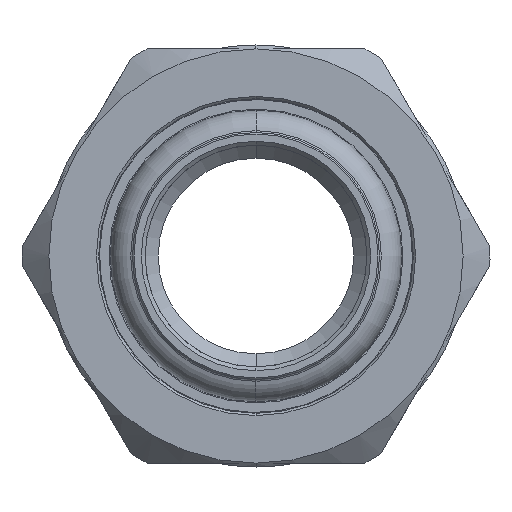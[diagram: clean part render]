
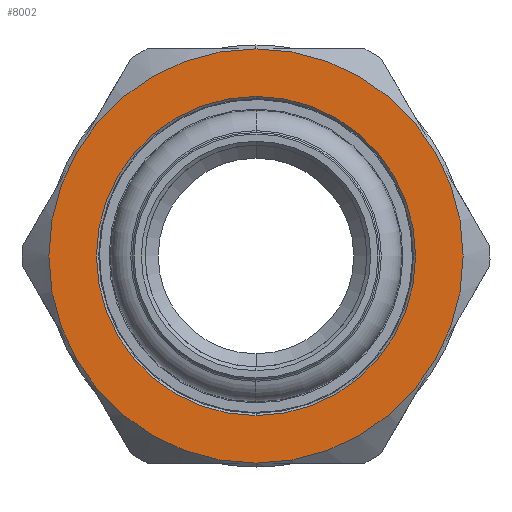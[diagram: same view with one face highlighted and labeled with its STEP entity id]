
A CAD part, left-side view. The second image highlights one B-rep face of the part: STEP entity #8002.
In plain terms, the highlighted planar face has unit normal (-1, 0, 0).
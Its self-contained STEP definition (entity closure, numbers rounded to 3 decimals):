
#55 = VERTEX_POINT('',#56);
#56 = CARTESIAN_POINT('',(-52.999,0.,-13.301));
#63 = CONICAL_SURFACE('',#64,0.82,0.785);
#64 = AXIS2_PLACEMENT_3D('',#65,#66,#67);
#65 = CARTESIAN_POINT('',(-52.999,0.,-14.121)
  );
#66 = DIRECTION('',(-1.,0.,0.));
#67 = DIRECTION('',(0.,0.,1.));
#75 = CONICAL_SURFACE('',#76,0.82,0.785);
#76 = AXIS2_PLACEMENT_3D('',#77,#78,#79);
#77 = CARTESIAN_POINT('',(-52.999,0.,-14.121)
  );
#78 = DIRECTION('',(-1.,0.,0.));
#79 = DIRECTION('',(0.,0.,1.));
#87 = EDGE_CURVE('',#55,#88,#90,.T.);
#88 = VERTEX_POINT('',#89);
#89 = CARTESIAN_POINT('',(-52.999,0.,-14.94)
  );
#90 = SURFACE_CURVE('',#91,(#96,#103),.PCURVE_S1.);
#91 = CIRCLE('',#92,0.82);
#92 = AXIS2_PLACEMENT_3D('',#93,#94,#95);
#93 = CARTESIAN_POINT('',(-52.999,0.,-14.121)
  );
#94 = DIRECTION('',(1.,0.,0.));
#95 = DIRECTION('',(0.,0.,-1.));
#96 = PCURVE('',#63,#97);
#97 = DEFINITIONAL_REPRESENTATION('',(#98),#102);
#98 = LINE('',#99,#100);
#99 = CARTESIAN_POINT('',(9.425,0.));
#100 = VECTOR('',#101,1.);
#101 = DIRECTION('',(-1.,0.));
#102 = ( GEOMETRIC_REPRESENTATION_CONTEXT(2) 
PARAMETRIC_REPRESENTATION_CONTEXT() REPRESENTATION_CONTEXT('2D SPACE',''
  ) );
#103 = PCURVE('',#104,#109);
#104 = PLANE('',#105);
#105 = AXIS2_PLACEMENT_3D('',#106,#107,#108);
#106 = CARTESIAN_POINT('',(-52.999,0.,-14.121)
  );
#107 = DIRECTION('',(1.,0.,0.));
#108 = DIRECTION('',(0.,0.,-1.));
#109 = DEFINITIONAL_REPRESENTATION('',(#110),#114);
#110 = CIRCLE('',#111,0.82);
#111 = AXIS2_PLACEMENT_2D('',#112,#113);
#112 = CARTESIAN_POINT('',(0.,0.));
#113 = DIRECTION('',(1.,0.));
#114 = ( GEOMETRIC_REPRESENTATION_CONTEXT(2) 
PARAMETRIC_REPRESENTATION_CONTEXT() REPRESENTATION_CONTEXT('2D SPACE',''
  ) );
#337 = EDGE_CURVE('',#338,#340,#342,.T.);
#338 = VERTEX_POINT('',#339);
#339 = CARTESIAN_POINT('',(-52.999,0.,-13.057)
  );
#340 = VERTEX_POINT('',#341);
#341 = CARTESIAN_POINT('',(-52.999,0.,-15.185)
  );
#342 = SURFACE_CURVE('',#343,(#348,#360),.PCURVE_S1.);
#343 = CIRCLE('',#344,1.064);
#344 = AXIS2_PLACEMENT_3D('',#345,#346,#347);
#345 = CARTESIAN_POINT('',(-52.999,0.,-14.121)
  );
#346 = DIRECTION('',(-1.,0.,0.));
#347 = DIRECTION('',(0.,0.,-1.));
#348 = PCURVE('',#349,#354);
#349 = CONICAL_SURFACE('',#350,1.202,0.785);
#350 = AXIS2_PLACEMENT_3D('',#351,#352,#353);
#351 = CARTESIAN_POINT('',(-52.861,0.,-14.121)
  );
#352 = DIRECTION('',(1.,0.,0.));
#353 = DIRECTION('',(0.,0.,-1.));
#354 = DEFINITIONAL_REPRESENTATION('',(#355),#359);
#355 = LINE('',#356,#357);
#356 = CARTESIAN_POINT('',(6.283,-0.138));
#357 = VECTOR('',#358,1.);
#358 = DIRECTION('',(-1.,0.));
#359 = ( GEOMETRIC_REPRESENTATION_CONTEXT(2) 
PARAMETRIC_REPRESENTATION_CONTEXT() REPRESENTATION_CONTEXT('2D SPACE',''
  ) );
#360 = PCURVE('',#104,#361);
#361 = DEFINITIONAL_REPRESENTATION('',(#362),#370);
#362 = ( BOUNDED_CURVE() B_SPLINE_CURVE(2,(#363,#364,#365,#366,#367,#368
,#369),.UNSPECIFIED.,.T.,.F.) B_SPLINE_CURVE_WITH_KNOTS((1,2,2,2,2,1),(
    -2.094,0.,2.094,4.189,6.283,
8.378),.UNSPECIFIED.) CURVE() GEOMETRIC_REPRESENTATION_ITEM() 
RATIONAL_B_SPLINE_CURVE((1.,0.5,1.,0.5,1.,0.5,1.)) REPRESENTATION_ITEM(
  '') );
#363 = CARTESIAN_POINT('',(1.064,0.));
#364 = CARTESIAN_POINT('',(1.064,-1.843));
#365 = CARTESIAN_POINT('',(-0.532,-0.921));
#366 = CARTESIAN_POINT('',(-2.128,0.));
#367 = CARTESIAN_POINT('',(-0.532,0.921));
#368 = CARTESIAN_POINT('',(1.064,1.843));
#369 = CARTESIAN_POINT('',(1.064,0.));
#370 = ( GEOMETRIC_REPRESENTATION_CONTEXT(2) 
PARAMETRIC_REPRESENTATION_CONTEXT() REPRESENTATION_CONTEXT('2D SPACE',''
  ) );
#388 = CONICAL_SURFACE('',#389,1.202,0.785);
#389 = AXIS2_PLACEMENT_3D('',#390,#391,#392);
#390 = CARTESIAN_POINT('',(-52.861,0.,-14.121)
  );
#391 = DIRECTION('',(1.,0.,0.));
#392 = DIRECTION('',(0.,0.,-1.));
#6572 = EDGE_CURVE('',#340,#338,#6573,.T.);
#6573 = SURFACE_CURVE('',#6574,(#6579,#6586),.PCURVE_S1.);
#6574 = CIRCLE('',#6575,1.064);
#6575 = AXIS2_PLACEMENT_3D('',#6576,#6577,#6578);
#6576 = CARTESIAN_POINT('',(-52.999,0.,-14.121
    ));
#6577 = DIRECTION('',(-1.,0.,0.));
#6578 = DIRECTION('',(0.,0.,-1.));
#6579 = PCURVE('',#388,#6580);
#6580 = DEFINITIONAL_REPRESENTATION('',(#6581),#6585);
#6581 = LINE('',#6582,#6583);
#6582 = CARTESIAN_POINT('',(6.283,-0.138));
#6583 = VECTOR('',#6584,1.);
#6584 = DIRECTION('',(-1.,0.));
#6585 = ( GEOMETRIC_REPRESENTATION_CONTEXT(2) 
PARAMETRIC_REPRESENTATION_CONTEXT() REPRESENTATION_CONTEXT('2D SPACE',''
  ) );
#6586 = PCURVE('',#104,#6587);
#6587 = DEFINITIONAL_REPRESENTATION('',(#6588),#6596);
#6588 = ( BOUNDED_CURVE() B_SPLINE_CURVE(2,(#6589,#6590,#6591,#6592,
#6593,#6594,#6595),.UNSPECIFIED.,.T.,.F.) B_SPLINE_CURVE_WITH_KNOTS((1,2
    ,2,2,2,1),(-2.094,0.,2.094,4.189,
6.283,8.378),.UNSPECIFIED.) CURVE() 
GEOMETRIC_REPRESENTATION_ITEM() RATIONAL_B_SPLINE_CURVE((1.,0.5,1.,0.5,
1.,0.5,1.)) REPRESENTATION_ITEM('') );
#6589 = CARTESIAN_POINT('',(1.064,0.));
#6590 = CARTESIAN_POINT('',(1.064,-1.843));
#6591 = CARTESIAN_POINT('',(-0.532,-0.921));
#6592 = CARTESIAN_POINT('',(-2.128,0.));
#6593 = CARTESIAN_POINT('',(-0.532,0.921));
#6594 = CARTESIAN_POINT('',(1.064,1.843));
#6595 = CARTESIAN_POINT('',(1.064,0.));
#6596 = ( GEOMETRIC_REPRESENTATION_CONTEXT(2) 
PARAMETRIC_REPRESENTATION_CONTEXT() REPRESENTATION_CONTEXT('2D SPACE',''
  ) );
#8002 = ADVANCED_FACE('',(#8003,#8028),#104,.F.);
#8003 = FACE_BOUND('',#8004,.T.);
#8004 = EDGE_LOOP('',(#8005,#8006));
#8005 = ORIENTED_EDGE('',*,*,#87,.T.);
#8006 = ORIENTED_EDGE('',*,*,#8007,.T.);
#8007 = EDGE_CURVE('',#88,#55,#8008,.T.);
#8008 = SURFACE_CURVE('',#8009,(#8014,#8021),.PCURVE_S1.);
#8009 = CIRCLE('',#8010,0.82);
#8010 = AXIS2_PLACEMENT_3D('',#8011,#8012,#8013);
#8011 = CARTESIAN_POINT('',(-52.999,0.,-14.121
    ));
#8012 = DIRECTION('',(1.,0.,0.));
#8013 = DIRECTION('',(0.,0.,-1.));
#8014 = PCURVE('',#104,#8015);
#8015 = DEFINITIONAL_REPRESENTATION('',(#8016),#8020);
#8016 = CIRCLE('',#8017,0.82);
#8017 = AXIS2_PLACEMENT_2D('',#8018,#8019);
#8018 = CARTESIAN_POINT('',(0.,0.));
#8019 = DIRECTION('',(1.,0.));
#8020 = ( GEOMETRIC_REPRESENTATION_CONTEXT(2) 
PARAMETRIC_REPRESENTATION_CONTEXT() REPRESENTATION_CONTEXT('2D SPACE',''
  ) );
#8021 = PCURVE('',#75,#8022);
#8022 = DEFINITIONAL_REPRESENTATION('',(#8023),#8027);
#8023 = LINE('',#8024,#8025);
#8024 = CARTESIAN_POINT('',(3.142,0.));
#8025 = VECTOR('',#8026,1.);
#8026 = DIRECTION('',(-1.,0.));
#8027 = ( GEOMETRIC_REPRESENTATION_CONTEXT(2) 
PARAMETRIC_REPRESENTATION_CONTEXT() REPRESENTATION_CONTEXT('2D SPACE',''
  ) );
#8028 = FACE_BOUND('',#8029,.T.);
#8029 = EDGE_LOOP('',(#8030,#8031));
#8030 = ORIENTED_EDGE('',*,*,#6572,.T.);
#8031 = ORIENTED_EDGE('',*,*,#337,.T.);
